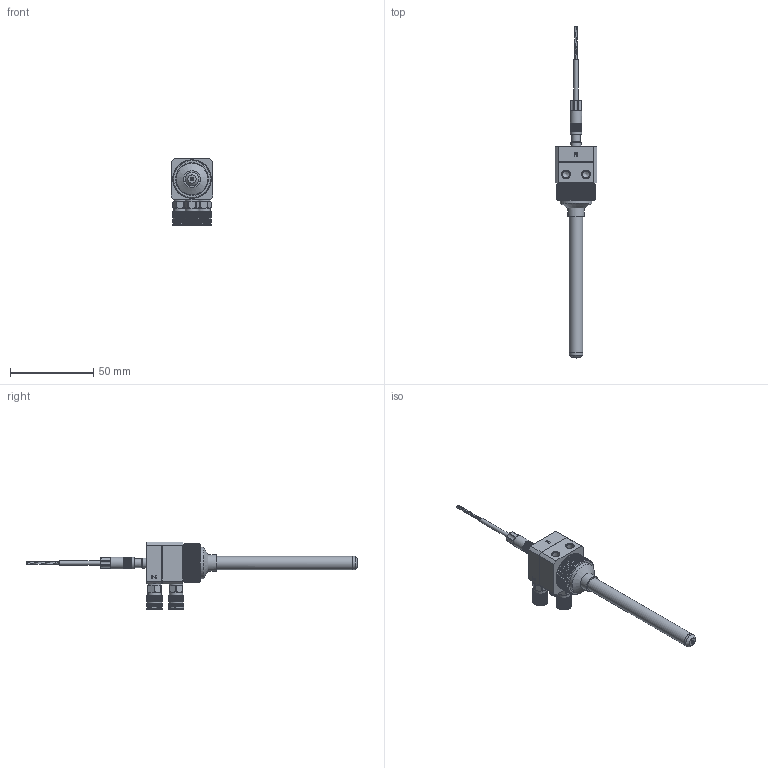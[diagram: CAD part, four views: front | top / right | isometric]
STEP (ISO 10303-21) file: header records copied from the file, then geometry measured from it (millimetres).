
FILE_DESCRIPTION (( 'STEP AP214' ), '1' );
FILE_NAME ('DAS-30-100F-8-HP-SENSOR.STEP', '2024-10-11T10:01:49', ( '' ), ( '' ), 'SwSTEP 2.0', 'SolidWorks 2024', '' );
FILE_SCHEMA (( 'AUTOMOTIVE_DESIGN' ));
Length unit declared in the file: millimetre
Products named in the file (1): DAS-30-100F-8-HP-SENSOR
Bounding box: 25 x 199 x 40.5 mm (x, y, z)
Volume: 25242.7 mm3; surface area: 14036.6 mm2
Topology: 2 solids, 2 shells, 1703 faces, 4539 edges, 2890 vertices
Faces by surface type: plane 1034, cylinder 424, cone 231, bspline 14
Full cylindrical faces by diameter (mm): 0.5 x1, 0.8 x3, 1.5 x4, 1.6 x1, 2.5 x1, 3 x3, 4 x5, 4.198 x2, 4.2 x2, 4.5 x3, 5.4 x4, 5.5 x4, 5.7 x3, 6 x1, 6.2 x3, 7 x2, 7.498 x3, 7.5 x3, 7.998 x1, 8 x7, 8.2 x1, 8.7 x3, 10 x2, 19 x1, 19.2 x1, 19.9 x1, 21 x2, 21.2 x1
Entity records: 56951 total; most frequent: CARTESIAN_POINT 16594, ORIENTED_EDGE 8660, DIRECTION 7827, EDGE_CURVE 4330, VERTEX_POINT 2816, AXIS2_PLACEMENT_3D 2677, VECTOR 2473, LINE 2473
